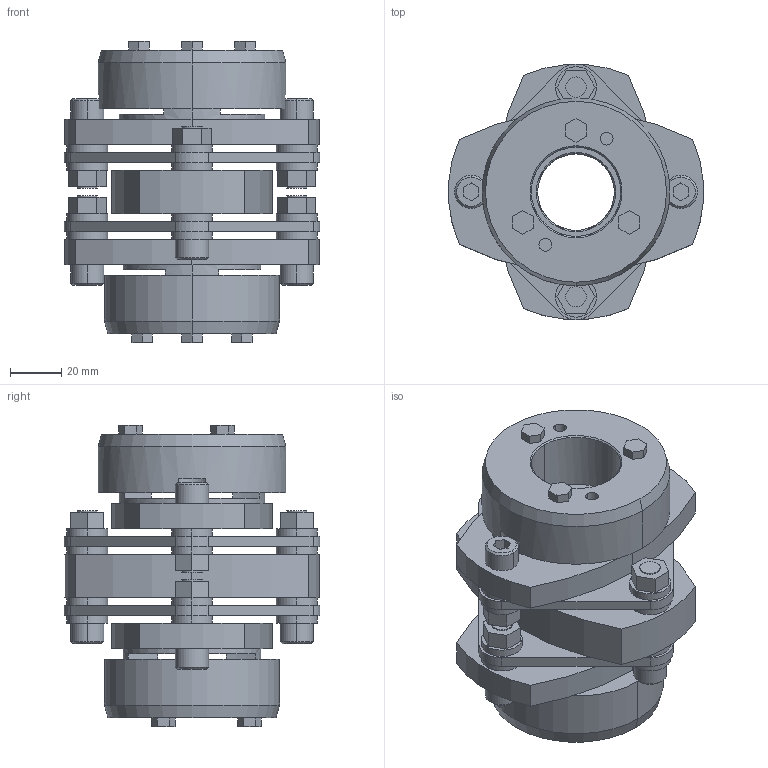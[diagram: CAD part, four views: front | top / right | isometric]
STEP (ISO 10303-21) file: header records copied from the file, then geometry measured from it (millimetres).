
FILE_DESCRIPTION((''),'2;1');
FILE_NAME('LCD-100T7-30×35.stp','2011-09-09T08:54:13',(''),(''),'AutoCAD STEP 2000i','AutoCAD 2000i',', , ');
FILE_SCHEMA(('CONFIG_CONTROL_DESIGN'));
Length unit declared in the file: millimetre
Products named in the file (9): LCD-100T7-30×35; 忣兜1; LC100T7-T035; LC100T7-T030-1; LC100T7-T030; LC100T7-T025; LC100T7-T022-1; LC100T7-T022; LCD100-ITA
Assembly tree (8 placements, depth 2):
  LCD-100T7-30×35
    忣兜1
    LC100T7-T035
    LC100T7-T030-1
    LC100T7-T030
    LC100T7-T025
    LC100T7-T022-1
    LC100T7-T022
    LCD100-ITA
Bounding box: 100 x 99.93 x 118 mm (x, y, z)
Volume: 365347.4 mm3; surface area: 92305.8 mm2
Topology: 1 solids, 1 shells, 324 faces, 792 edges, 520 vertices
Faces by surface type: plane 178, cylinder 122, cone 24
Entity records: 9831 total; most frequent: DIRECTION 1746, CARTESIAN_POINT 1645, ORIENTED_EDGE 1584, EDGE_CURVE 792, AXIS2_PLACEMENT_3D 621, VERTEX_POINT 520, VECTOR 504, LINE 504
